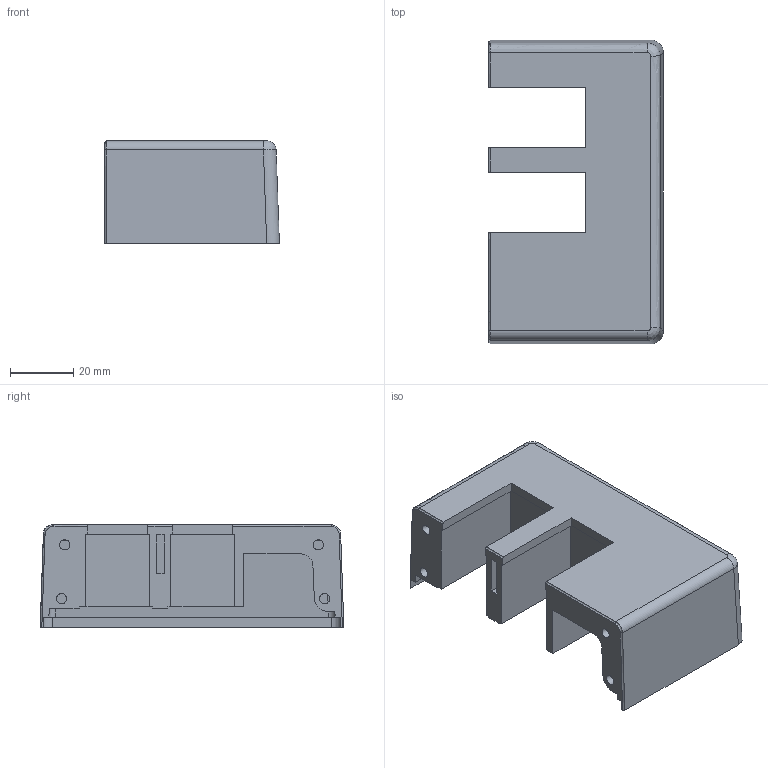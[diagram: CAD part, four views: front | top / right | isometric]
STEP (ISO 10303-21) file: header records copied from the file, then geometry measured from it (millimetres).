
FILE_DESCRIPTION(('FreeCAD Model'),'2;1');
FILE_NAME('Open CASCADE Shape Model','2023-09-06T18:20:43',(''),(''), 'Open CASCADE STEP processor 7.6','FreeCAD','Unknown');
FILE_SCHEMA(('AUTOMOTIVE_DESIGN { 1 0 10303 214 1 1 1 1 }'));
Length unit declared in the file: millimetre
Products named in the file (1): Upper_Right_Sol
Bounding box: 55.13 x 95.86 x 32.3 mm (x, y, z)
Volume: 42691.3 mm3; surface area: 32135.6 mm2
Topology: 1 solids, 1 shells, 93 faces, 263 edges, 172 vertices
Faces by surface type: plane 55, bspline 21, cylinder 8, extrusion 6, revolution 3
Full cylindrical faces by diameter (mm): 3.2 x4
Entity records: 10735 total; most frequent: CARTESIAN_POINT 5976, DIRECTION 706, ORIENTED_EDGE 526, PCURVE 526, DEFINITIONAL_REPRESENTATION 526, VECTOR 507, LINE 501, EDGE_CURVE 263
